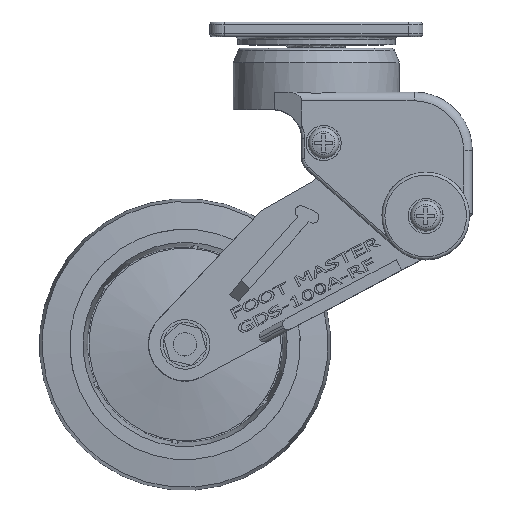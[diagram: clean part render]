
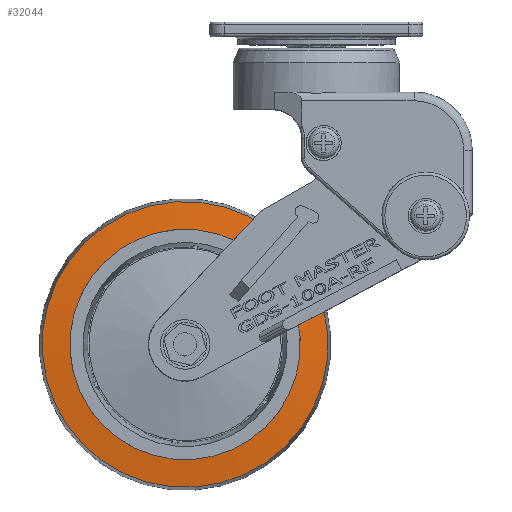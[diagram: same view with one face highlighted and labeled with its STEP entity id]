
A CAD part, top view. The second image highlights one B-rep face of the part: STEP entity #32044.
In plain terms, the highlighted conical face has half-angle 83.991 degrees and reference radius 44.25 mm.
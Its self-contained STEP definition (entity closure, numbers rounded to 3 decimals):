
#32017=CARTESIAN_POINT('',(99.621,104.369,14.5));
#32018=DIRECTION('',(0.0,0.0,-1.0));
#32019=DIRECTION('',(-0.587,-0.809,0.0));
#32020=AXIS2_PLACEMENT_3D('',#32017,#32018,#32019);
#32021=CONICAL_SURFACE('',#32020,44.25,83.991);
#32022=CARTESIAN_POINT('',(128.396,144.03,14.));
#32023=VERTEX_POINT('',#32022);
#32024=CARTESIAN_POINT('',(99.621,104.369,14.));
#32025=DIRECTION('',(0.0,0.0,-1.));
#32026=DIRECTION('',(-0.587,-0.809,0.0));
#32027=AXIS2_PLACEMENT_3D('',#32024,#32025,#32026);
#32028=CIRCLE('',#32027,49.);
#32029=EDGE_CURVE('',#32023,#32023,#32028,.T.);
#32030=ORIENTED_EDGE('',*,*,#32029,.F.);
#32031=EDGE_LOOP('',(#32030));
#32032=FACE_OUTER_BOUND('',#32031,.T.);
#32033=CARTESIAN_POINT('',(131.607,81.163,14.998));
#32034=VERTEX_POINT('',#32033);
#32035=CARTESIAN_POINT('',(99.621,104.369,14.998));
#32036=DIRECTION('',(0.0,0.0,1.));
#32037=DIRECTION('',(-0.809,0.587,0.0));
#32038=AXIS2_PLACEMENT_3D('',#32035,#32036,#32037);
#32039=CIRCLE('',#32038,39.517);
#32040=EDGE_CURVE('',#32034,#32034,#32039,.T.);
#32041=ORIENTED_EDGE('',*,*,#32040,.F.);
#32042=EDGE_LOOP('',(#32041));
#32043=FACE_BOUND('',#32042,.T.);
#32044=ADVANCED_FACE('',(#32032,#32043),#32021,.T.);
